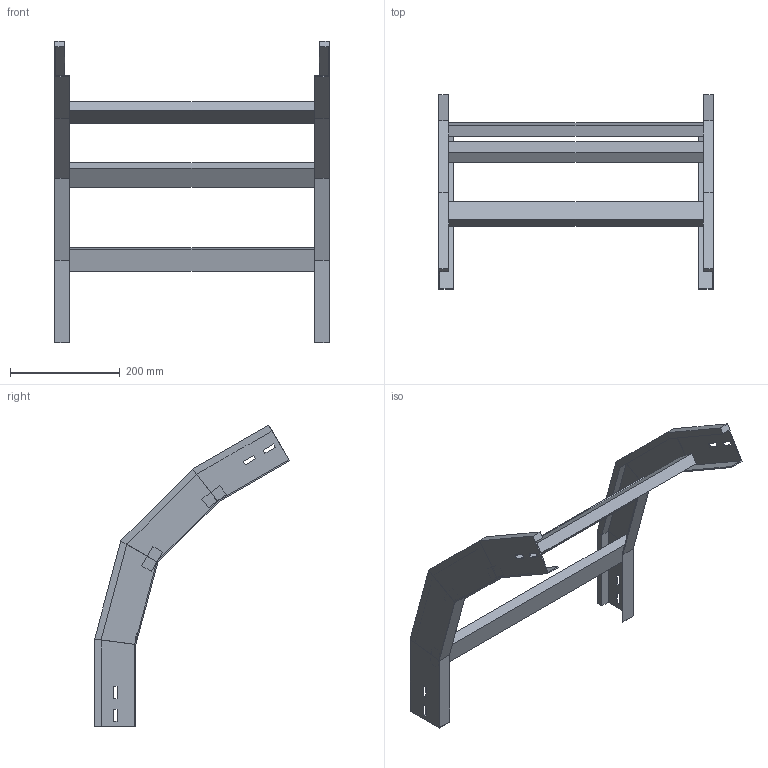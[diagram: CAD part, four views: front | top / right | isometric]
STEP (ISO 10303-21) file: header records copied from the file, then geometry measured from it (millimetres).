
FILE_DESCRIPTION (( 'STEP AP214' ), '1' );
FILE_NAME ('A2_41B3C500.step', '2025-02-21T15:00:05', ( '' ), ( '' ), 'SwSTEP 2.0', 'SolidWorks 2023', '' );
FILE_SCHEMA (( 'AUTOMOTIVE_DESIGN' ));
Length unit declared in the file: millimetre
Products named in the file (3): TRAVERSINO_500; LONGH.DISCESA_60°_H75_R300; A2_41B3C500
Assembly tree (5 placements, depth 2):
  A2_41B3C500
    LONGH.DISCESA_60°_H75_R300  x2
    TRAVERSINO_500  x3
Bounding box: 500 x 354.62 x 549.27 mm (x, y, z)
Volume: 1721267.7 mm3; surface area: 489930.3 mm2
Topology: 5 solids, 5 shells, 118 faces, 276 edges, 168 vertices
Faces by surface type: plane 118
Entity records: 1672 total; most frequent: CARTESIAN_POINT 276, ORIENTED_EDGE 264, DIRECTION 260, EDGE_CURVE 132, VECTOR 132, LINE 132, VERTEX_POINT 80, EDGE_LOOP 64
